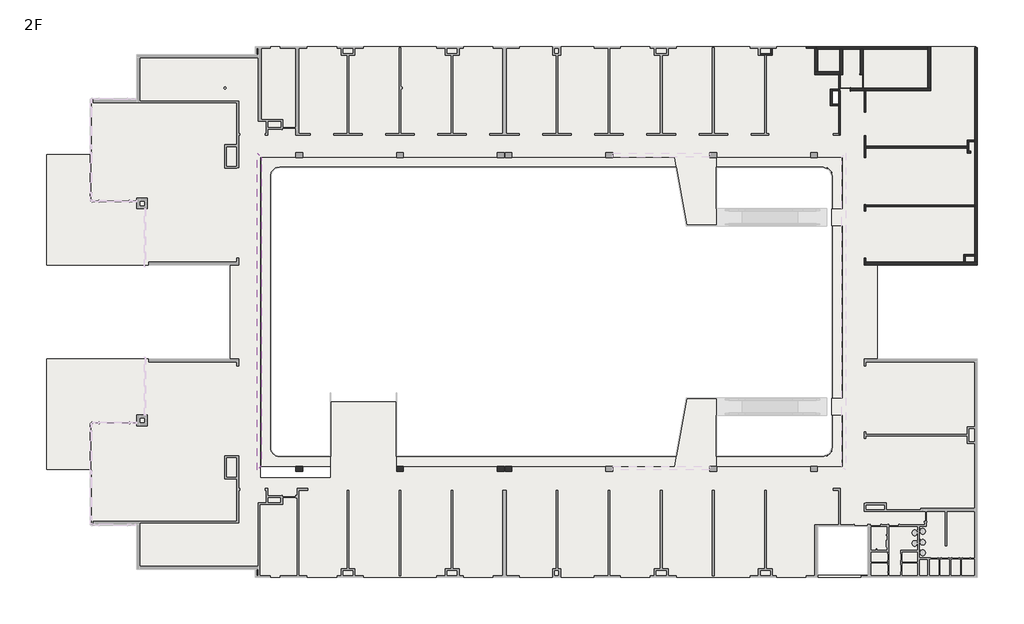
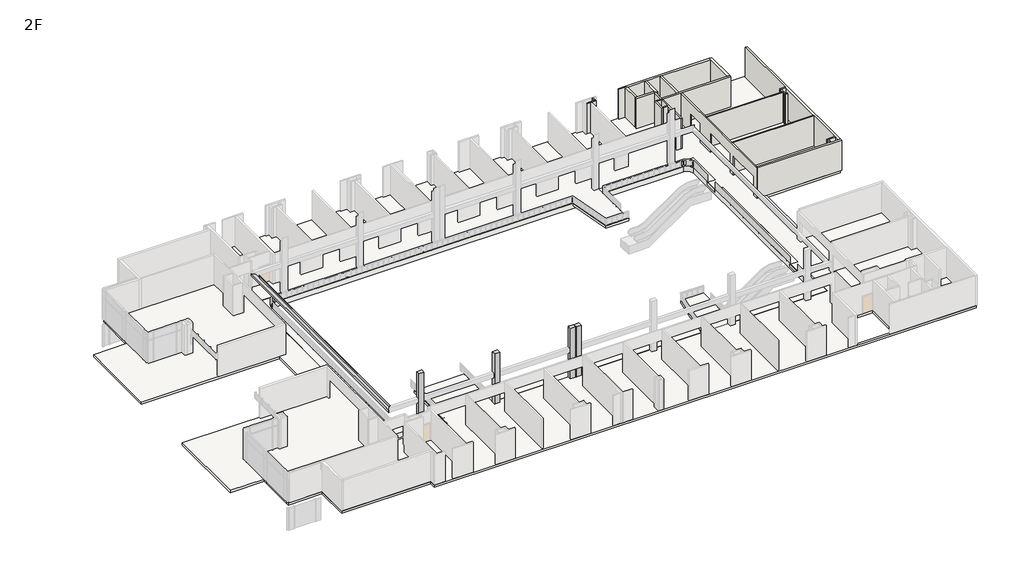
# One storey, part 5 of 6: 24 walls, 4 columns, 2 doors, 2 slabs, 1 beam.
"""IFC4 building model written with IfcOpenShell, lengths in millimetres."""

from ifc_helpers import new_model, si_unit, frame, origin, place, context, project, spatial, polyline, circle_curve, outline, extrude, faceted_brep, transform, mapped, element, save
from ifc_brep_helpers import plane_surface, cylinder_surface, revolved_surface, advanced_brep
from components import m_single_flush_d_1200x2150_ab82cfb8, m_single_flush_d_900x2150_afd04a23

model = new_model("IFC4")

# Units and contexts
model_context = context("Model", 3, world=origin())
ifc_project = project(units=[si_unit("LENGTHUNIT", "METRE", prefix="MILLI")], contexts=[model_context])

# Site, building, storey
site = spatial("IfcSite", under=ifc_project)
building = spatial("IfcBuilding", under=site)
storey = spatial("IfcBuildingStorey", under=building, Name="2F", Elevation=8100.0)

# Beam
placement = place(None, origin())
element("IfcBeam", 1, ObjectType="M_Concrete-Rectangular Beam : 350 x 550mm", at=placement, inside=storey, context=model_context, shape_type="AdvancedBrep", body=[
    advanced_brep(
    [(-20552.5865899, -15987.6148653, 11850.0), (-20537.5865899, -15972.6148653, 11850.0), (-20537.5865899, 10784.6332503, 11850.0), (-20552.5865899, 10635.3851347, 11850.0), (-20537.5865899, -15972.6148653, 11300.0), (-20537.5865899, 11447.3851347, 11300.0), (-20537.5865899, 11447.3851347, 11575.0), (-20537.5865899, 10784.6332503, 11575.0), (-20887.5865899, -16322.6148653, 11300.0), (-20887.5865899, 11797.3851347, 11300.0), (-20887.5865899, -16322.6148653, 11575.0), (-20887.5865899, 11797.3851347, 11575.0), (-20552.5865899, -15987.6148653, 11575.0), (-20552.5865899, 10635.3851347, 11575.0)],
    [
        (0, 1),
        (1, 2),
        (2, 3, circle_curve(frame((-19802.5865899, 10635.3851347, 11850.0), z_axis=(0.0, 0.0, 1.0), x_axis=(1.0, 0.0, 0.0)), 750.0)),
        (3, 0),
        (4, 5),
        (5, 6),
        (6, 7),
        (7, 2),
        (1, 4),
        (4, 8),
        (8, 9),
        (9, 5),
        (8, 10),
        (10, 11),
        (11, 9),
        (11, 6),
        (0, 12),
        (12, 10),
        (12, 13),
        (13, 7, circle_curve(frame((-19802.5865899, 10635.3851347, 11575.0), z_axis=(0.0, 0.0, -1.0), x_axis=(1.0, 0.0, 0.0)), 750.0)),
        (13, 3),
    ],
    [
        plane_surface(frame((-20887.5865899, 11434.6851347, 11850.0), z_axis=(0.0, 0.0, 1.0), x_axis=(0.0, -1.0, 0.0))),
        plane_surface(frame((-20537.5865899, 11434.6851347, 11850.0), z_axis=(1.0, 0.0, 0.0), x_axis=(0.0, -1.0, 0.0))),
        plane_surface(frame((-20537.5865899, 11434.6851347, 11300.0), z_axis=(0.0, 0.0, -1.0), x_axis=(0.0, -1.0, 0.0))),
        plane_surface(frame((-20887.5865899, 11434.6851347, 11300.0), z_axis=(-1.0, 0.0, 0.0), x_axis=(0.0, -1.0, 0.0))),
        plane_surface(frame((-20537.5865899, 11447.3851347, 11850.0), z_axis=(0.7071067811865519, 0.7071067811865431, 0.0), x_axis=(0.7071067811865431, -0.7071067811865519, 0.0))),
        plane_surface(frame((-20537.5865899, -15972.6148653, 11850.0), z_axis=(0.7071067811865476, -0.7071067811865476, 0.0), x_axis=(0.7071067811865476, 0.7071067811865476, 0.0))),
        plane_surface(frame((42824.4134101, 21235.3851347, 11575.0), z_axis=(0.0, 0.0, 1.0), x_axis=(1.0, 0.0, 0.0))),
        cylinder_surface(frame((-19802.5865899, 10635.3851347, 11850.0), z_axis=(0.0, 0.0, 1.0), x_axis=(1.0, 0.0, 0.0)), 750.0),
        plane_surface(frame((-20552.5865899, 10635.3851347, 11575.0), z_axis=(-1.0, 0.0, 0.0), x_axis=(0.0, 0.0, 1.0))),
    ],
    [
        (0, [[1, 2, 3, 4]]),
        (1, [[5, 6, 7, 8, -2, 9]]),
        (2, [[-5, 10, 11, 12]]),
        (3, [[-11, 13, 14, 15]]),
        (4, [[-12, -15, 16, -6]]),
        (5, [[-10, -9, -1, 17, 18, -13]]),
        (6, [[19, 20, -7, -16, -14, -18]]),
        (7, [[21, -3, -8, -20]]),
        (8, [[-21, -19, -17, -4]]),
    ],
),
])

# Columns
element("IfcColumn", 2, ObjectType="Concrete-Rectangular-Column : 450x600", at=placement, inside=storey, context=model_context, shape_type="Brep", body=[
    faceted_brep([(-7907.5865899, -15972.6148653, 8100.0), (-7907.5865899, -16422.6148653, 8100.0), (-8507.5865899, -16422.6148653, 8100.0), (-8507.5865899, -15972.6148653, 8100.0), (-8507.5865899, -15972.6148653, 11300.0), (-8507.5865899, -15972.6148653, 11850.0), (-8507.5865899, -15972.6148653, 14375.0), (-7907.5865899, -15972.6148653, 14375.0), (-7907.5865899, -15972.6148653, 11850.0), (-7907.5865899, -15972.6148653, 11300.0), (-8507.5865899, -16422.6148653, 14375.0), (-7907.5865899, -16422.6148653, 14375.0)], [[[0, 1, 2, 3]], [[0, 3, 4, 5, 6, 7, 8, 9]], [[3, 2, 10, 6, 5, 4]], [[2, 1, 11, 10]], [[1, 0, 9, 8, 7, 11]], [[7, 6, 10, 11]]]),
])
element("IfcColumn", 3, ObjectType="Concrete-Rectangular-Column : 450x600", at=placement, inside=storey, context=model_context, shape_type="Brep", body=[
    faceted_brep([(-16837.5865899, -15972.6148653, 15000.0), (-17437.5865899, -15972.6148653, 15000.0), (-17437.5865899, -16422.6148653, 15000.0), (-16837.5865899, -16422.6148653, 15000.0), (-16837.5865899, -15972.6148653, 8100.0), (-16837.5865899, -16422.6148653, 8100.0), (-17437.5865899, -16422.6148653, 8100.0), (-17437.5865899, -15972.6148653, 8100.0), (-16837.5865899, -15972.6148653, 11850.0), (-16837.5865899, -15972.6148653, 11300.0), (-17437.5865899, -15972.6148653, 11300.0), (-17437.5865899, -15972.6148653, 11850.0)], [[[0, 1, 2, 3]], [[4, 5, 6, 7]], [[1, 0, 8, 9, 4, 7, 10, 11]], [[2, 1, 11, 10, 7, 6]], [[3, 2, 6, 5]], [[0, 3, 5, 4, 9, 8]]]),
])
element("IfcColumn", 4, ObjectType="Concrete-Rectangular-Column : 450x600", at=placement, inside=storey, context=model_context, shape_type="Brep", body=[
    faceted_brep([(1022.4134101, -15972.6148653, 8100.0), (1022.4134101, -16422.6148653, 8100.0), (422.4134101, -16422.6148653, 8100.0), (422.4134101, -15972.6148653, 8100.0), (422.4134101, -15972.6148653, 11300.0), (422.4134101, -15972.6148653, 11850.0), (422.4134101, -15972.6148653, 14375.0), (1022.4134101, -15972.6148653, 14375.0), (1022.4134101, -15972.6148653, 11850.0), (1022.4134101, -15972.6148653, 11300.0), (422.4134101, -16422.6148653, 14375.0), (1022.4134101, -16422.6148653, 14375.0)], [[[0, 1, 2, 3]], [[0, 3, 4, 5, 6, 7, 8, 9]], [[3, 2, 10, 6, 5, 4]], [[2, 1, 11, 10]], [[1, 0, 9, 8, 7, 11]], [[7, 6, 10, 11]]]),
])
element("IfcColumn", 5, ObjectType="Concrete-Rectangular-Column : 450x600", at=placement, inside=storey, context=model_context, shape_type="Brep", body=[
    faceted_brep([(1697.4134101, -15972.6148653, 8100.0), (1697.4134101, -16422.6148653, 8100.0), (1097.4134101, -16422.6148653, 8100.0), (1097.4134101, -15972.6148653, 8100.0), (1097.4134101, -15972.6148653, 11300.0), (1097.4134101, -15972.6148653, 11850.0), (1097.4134101, -15972.6148653, 14375.0), (1697.4134101, -15972.6148653, 14375.0), (1697.4134101, -15972.6148653, 11850.0), (1697.4134101, -15972.6148653, 11300.0), (1097.4134101, -16422.6148653, 14375.0), (1697.4134101, -16422.6148653, 14375.0)], [[[0, 1, 2, 3]], [[0, 3, 4, 5, 6, 7, 8, 9]], [[3, 2, 10, 6, 5, 4]], [[2, 1, 11, 10]], [[1, 0, 9, 8, 7, 11]], [[7, 6, 10, 11]]]),
])

# Doors
m_single_flush_d_1200x2150_shape = m_single_flush_d_1200x2150_ab82cfb8(model_context)
element("IfcDoor", 6, ObjectType="M_Single-Flush : D-1200x2150", at=placement, inside=storey, context=model_context, shape_type="MappedRepresentation", body=[
    mapped(m_single_flush_d_1200x2150_shape, transform((32705.9134101, 18167.3851347, 8100.0), x_axis=(0.0, -1.0, 0.0), y_axis=(1.0, 0.0, 0.0), z_axis=(0.0, 0.0, 1.0))),
])
m_single_flush_d_900x2150_shape = m_single_flush_d_900x2150_afd04a23(model_context)
element("IfcDoor", 7, ObjectType="M_Single-Flush : D-900x2150", at=placement, inside=storey, context=model_context, shape_type="MappedRepresentation", body=[
    mapped(m_single_flush_d_900x2150_shape, transform((31237.4134101, 17450.8851347, 8100.0), x_axis=(-1.0, 0.0, 0.0), y_axis=(0.0, -1.0, 0.0), z_axis=(0.0, 0.0, 1.0))),
])

# Slabs
element("IfcSlab", 8, ObjectType="Composite 225mm", at=placement, inside=storey, context=model_context, shape_type="Brep", body=[
    faceted_brep([(-21051.0865899, 21259.3851347, 7825.0), (42824.4134101, 21259.3851347, 7825.0), (42824.4134101, 1885.3851347, 7825.0), (34074.4134101, 1885.3851347, 7825.0), (34074.4134101, -6457.6148653, 7825.0), (42824.4134101, -6457.6148653, 7825.0), (42824.4134101, -25834.6148653, 7825.0), (-21051.0865899, -25834.6148653, 7825.0), (-21051.0865899, -25109.6148653, 7825.0), (-31549.5865899, -25109.6148653, 7825.0), (-31549.5865899, -21112.6148653, 7825.0), (-35549.5865899, -21112.6148653, 7825.0), (-35549.5865899, -16237.6148653, 7825.0), (-39549.5865899, -16237.6148653, 7825.0), (-39549.5865899, -6460.6148653, 7825.0), (-23282.5865899, -6460.6148653, 7825.0), (-23282.5865899, 1885.3851348, 7825.0), (-39549.5865899, 1885.3851348, 7825.0), (-39549.5865899, 11662.3851347, 7825.0), (-35549.5865899, 11662.3851347, 7825.0), (-35549.5865899, 16534.3851347, 7825.0), (-31549.5865899, 16534.3851347, 7825.0), (-31549.5865899, 20534.3851347, 7825.0), (-21051.0865899, 20534.3851347, 7825.0), (16102.6351768, 11409.3851347, 7825.0), (10727.4134101, 11409.3851347, 7825.0), (9927.4134101, 11409.3851347, 7825.0), (-7807.5865899, 11409.3851347, 7825.0), (-8607.5865899, 11409.3851347, 7825.0), (-16522.5865899, 11409.3851347, 7825.0), (-17322.5865899, 11409.3851347, 7825.0), (-20551.0865899, 11409.3851347, 7825.0), (-20551.0865899, 11397.3851347, 7825.0), (-20551.0865899, -15960.6148653, 7825.0), (-20551.0865899, -15986.1148653, 7825.0), (-20551.0865899, -16322.6148653, 7825.0), (-20551.0865899, -16960.6148653, 7825.0), (-14412.5865899, -16960.6148653, 7825.0), (-14412.5865899, -16322.6148653, 7825.0), (-14412.5865899, -15972.6148653, 7825.0), (-14412.5865899, -10230.6148653, 7825.0), (-8492.5865899, -10230.6148653, 7825.0), (-8492.5865899, -15984.6148653, 7825.0), (-7807.5865899, -15984.6148653, 7825.0), (422.4134101, -15984.6148653, 7825.0), (1022.4134101, -15984.6148653, 7825.0), (1097.4134101, -15984.6148653, 7825.0), (1697.4134101, -15984.6148653, 7825.0), (9927.4134101, -15984.6148653, 7825.0), (10727.4134101, -15984.6148653, 7825.0), (16102.6351768, -15984.6148653, 7825.0), (16104.7511006, -15972.6148653, 7825.0), (17169.4134101, -9934.6148653, 7825.0), (19869.4134101, -9934.6148653, 7825.0), (19869.4134101, -15984.6148653, 7825.0), (19957.4134101, -15984.6148653, 7825.0), (27987.4134101, -15984.6148653, 7825.0), (28787.4134101, -15984.6148653, 7825.0), (30974.4134101, -15984.6148653, 7825.0), (30974.4134101, -15972.6148653, 7825.0), (30974.4134101, -11484.6148653, 7825.0), (30962.4134101, -11484.6148653, 7825.0), (30034.2682249, -11484.6148653, 7825.0), (30034.2682249, -9934.6148653, 7825.0), (30962.4134101, -9934.6148653, 7825.0), (30974.4134101, -9934.6148653, 7825.0), (30974.4134101, 5335.3851347, 7825.0), (30962.4134101, 5335.3851347, 7825.0), (30034.2682249, 5335.3851347, 7825.0), (30034.2682249, 6885.3851347, 7825.0), (30962.4134101, 6885.3851347, 7825.0), (30974.4134101, 6885.3851347, 7825.0), (30974.4134101, 11397.3851347, 7825.0), (30974.4134101, 11409.3851347, 7825.0), (28787.4134101, 11409.3851347, 7825.0), (27987.4134101, 11409.3851347, 7825.0), (19957.4134101, 11409.3851347, 7825.0), (19869.4134101, 11409.3851347, 7825.0), (19869.4134101, 5335.3851347, 7825.0), (17169.4134101, 5335.3851347, 7825.0), (16104.74274, 11397.3851347, 7825.0), (28799.4134101, -21299.6148653, 7825.0), (28799.4134101, -25604.6148653, 7825.0), (33247.4134101, -25604.6148653, 7825.0), (33247.4134101, -21299.6148653, 7825.0), (30672.4134101, 17337.3851347, 7825.0), (30072.4134101, 17337.3851347, 7825.0), (30072.4134101, 16137.3851347, 7825.0), (30672.4134101, 16137.3851347, 7825.0), (42824.4134101, 21259.3851347, 8100.0), (-21051.0865899, 21259.3851347, 8100.0), (-21051.0865899, 20534.3851347, 8100.0), (-31549.5865899, 20534.3851347, 8100.0), (-31549.5865899, 16534.3851347, 8100.0), (-35549.5865899, 16534.3851347, 8100.0), (-35549.5865899, 11662.3851347, 8100.0), (-39549.5865899, 11662.3851347, 8100.0), (-39549.5865899, 1885.3851348, 8100.0), (-23282.5865899, 1885.3851348, 8100.0), (-23282.5865899, -6460.6148653, 8100.0), (-39549.5865899, -6460.6148653, 8100.0), (-39549.5865899, -16237.6148653, 8100.0), (-35549.5865899, -16237.6148653, 8100.0), (-35549.5865899, -21112.6148653, 8100.0), (-31549.5865899, -21112.6148653, 8100.0), (-31549.5865899, -25109.6148653, 8100.0), (-21051.0865899, -25109.6148653, 8100.0), (-21051.0865899, -25834.6148653, 8100.0), (42824.4134101, -25834.6148653, 8100.0), (42824.4134101, -6457.6148653, 8100.0), (34074.4134101, -6457.6148653, 8100.0), (34074.4134101, 1885.3851347, 8100.0), (42824.4134101, 1885.3851347, 8100.0), (-20551.0865899, 11409.3851347, 8100.0), (-17322.5865899, 11409.3851347, 8100.0), (-16522.5865899, 11409.3851347, 8100.0), (-8607.5865899, 11409.3851347, 8100.0), (-7807.5865899, 11409.3851347, 8100.0), (9927.4134101, 11409.3851347, 8100.0), (10727.4134101, 11409.3851347, 8100.0), (16102.6351768, 11409.3851347, 8100.0), (16104.74274, 11397.3851347, 8100.0), (17169.4134101, 5335.3851347, 8100.0), (19869.4134101, 5335.3851347, 8100.0), (19869.4134101, 11409.3851347, 8100.0), (19957.4134101, 11409.3851347, 8100.0), (27987.4134101, 11409.3851347, 8100.0), (28787.4134101, 11409.3851347, 8100.0), (30974.4134101, 11409.3851347, 8100.0), (30974.4134101, 11397.3851347, 8100.0), (30974.4134101, 6885.3851347, 8100.0), (30034.2682249, 6885.3851347, 8100.0), (30034.2682249, 5335.3851347, 8100.0), (30974.4134101, 5335.3851347, 8100.0), (30974.4134101, -9934.6148653, 8100.0), (30034.2682249, -9934.6148653, 8100.0), (30034.2682249, -11484.6148653, 8100.0), (30974.4134101, -11484.6148653, 8100.0), (30974.4134101, -15972.6148653, 8100.0), (30974.4134101, -15984.6148653, 8100.0), (28787.4134101, -15984.6148653, 8100.0), (27987.4134101, -15984.6148653, 8100.0), (19957.4134101, -15984.6148653, 8100.0), (19869.4134101, -15984.6148653, 8100.0), (19869.4134101, -9934.6148653, 8100.0), (17169.4134101, -9934.6148653, 8100.0), (16104.7511006, -15972.6148653, 8100.0), (16102.6351768, -15984.6148653, 8100.0), (10727.4134101, -15984.6148653, 8100.0), (9927.4134101, -15984.6148653, 8100.0), (1697.4134101, -15984.6148653, 8100.0), (1097.4134101, -15984.6148653, 8100.0), (1022.4134101, -15984.6148653, 8100.0), (422.4134101, -15984.6148653, 8100.0), (-7807.5865899, -15984.6148653, 8100.0), (-8492.5865899, -15984.6148653, 8100.0), (-8492.5865899, -10230.6148653, 8100.0), (-14412.5865899, -10230.6148653, 8100.0), (-14412.5865899, -15972.6148653, 8100.0), (-14412.5865899, -16322.6148653, 8100.0), (-14412.5865899, -16960.6148653, 8100.0), (-20551.0865899, -16960.6148653, 8100.0), (-20551.0865899, -16322.6148653, 8100.0), (-20551.0865899, -15986.1148653, 8100.0), (-20551.0865899, 11397.3851347, 8100.0), (28799.4134101, -25604.6148653, 8100.0), (28799.4134101, -21299.6148653, 8100.0), (33247.4134101, -21299.6148653, 8100.0), (33247.4134101, -25604.6148653, 8100.0), (30072.4134101, 17337.3851347, 8100.0), (30672.4134101, 17337.3851347, 8100.0), (30672.4134101, 16137.3851347, 8100.0), (30072.4134101, 16137.3851347, 8100.0), (30974.4134101, -11484.6148653, 8025.0), (30974.4134101, -9934.6148653, 8025.0), (30974.4134101, 5335.3851347, 8025.0), (30974.4134101, 6885.3851347, 8025.0)], [[[0, 1, 2, 3, 4, 5, 6, 7, 8, 9, 10, 11, 12, 13, 14, 15, 16, 17, 18, 19, 20, 21, 22, 23], [24, 25, 26, 27, 28, 29, 30, 31, 32, 33, 34, 35, 36, 37, 38, 39, 40, 41, 42, 43, 44, 45, 46, 47, 48, 49, 50, 51, 52, 53, 54, 55, 56, 57, 58, 59, 60, 61, 62, 63, 64, 65, 66, 67, 68, 69, 70, 71, 72, 73, 74, 75, 76, 77, 78, 79, 80], [81, 82, 83, 84], [85, 86, 87, 88]], [[89, 90, 91, 92, 93, 94, 95, 96, 97, 98, 99, 100, 101, 102, 103, 104, 105, 106, 107, 108, 109, 110, 111, 112], [113, 114, 115, 116, 117, 118, 119, 120, 121, 122, 123, 124, 125, 126, 127, 128, 129, 130, 131, 132, 133, 134, 135, 136, 137, 138, 139, 140, 141, 142, 143, 144, 145, 146, 147, 148, 149, 150, 151, 152, 153, 154, 155, 156, 157, 158, 159, 160, 161, 162, 163, 164], [165, 166, 167, 168], [169, 170, 171, 172]], [[1, 0, 90, 89]], [[2, 1, 89, 112]], [[3, 2, 112, 111]], [[4, 3, 111, 110]], [[5, 4, 110, 109]], [[6, 5, 109, 108]], [[7, 6, 108, 107]], [[8, 7, 107, 106]], [[9, 8, 106, 105]], [[10, 9, 105, 104]], [[11, 10, 104, 103]], [[12, 11, 103, 102]], [[13, 12, 102, 101]], [[14, 13, 101, 100]], [[15, 14, 100, 99]], [[16, 15, 99, 98]], [[17, 16, 98, 97]], [[18, 17, 97, 96]], [[19, 18, 96, 95]], [[20, 19, 95, 94]], [[21, 20, 94, 93]], [[22, 21, 93, 92]], [[23, 22, 92, 91]], [[0, 23, 91, 90]], [[31, 30, 29, 28, 27, 26, 25, 24, 120, 119, 118, 117, 116, 115, 114, 113]], [[36, 35, 34, 33, 32, 31, 113, 164, 163, 162, 161]], [[37, 36, 161, 160]], [[40, 39, 38, 37, 160, 159, 158, 157]], [[41, 40, 157, 156]], [[42, 41, 156, 155]], [[50, 49, 48, 47, 46, 45, 44, 43, 42, 155, 154, 153, 152, 151, 150, 149, 148, 147]], [[52, 51, 50, 147, 146, 145]], [[53, 52, 145, 144]], [[54, 53, 144, 143]], [[58, 57, 56, 55, 54, 143, 142, 141, 140, 139]], [[60, 59, 58, 139, 138, 137, 173]], [[62, 61, 60, 173, 137, 136]], [[63, 62, 136, 135]], [[65, 64, 63, 135, 134, 174]], [[66, 65, 174, 134, 133, 175]], [[68, 67, 66, 175, 133, 132]], [[69, 68, 132, 131]], [[71, 70, 69, 131, 130, 176]], [[73, 72, 71, 176, 130, 129, 128]], [[77, 76, 75, 74, 73, 128, 127, 126, 125, 124]], [[78, 77, 124, 123]], [[79, 78, 123, 122]], [[24, 80, 79, 122, 121, 120]], [[82, 81, 166, 165]], [[83, 82, 165, 168]], [[84, 83, 168, 167]], [[81, 84, 167, 166]], [[85, 170, 169, 86]], [[86, 169, 172, 87]], [[87, 172, 171, 88]], [[170, 85, 88, 171]]]),
])
element("IfcSlab", 9, ObjectType="Composite 625mm", at=placement, inside=storey, context=model_context, shape_type="AdvancedBrep", body=[
    advanced_brep(
    [(-20537.5865899, 11397.3851347, 7475.0), (30962.4134101, 11397.3851347, 7475.0), (30962.4134101, -15972.6148653, 7475.0), (-20537.5865899, -15972.6148653, 7475.0), (-20537.5865899, -15960.6148653, 7475.0), (-18887.5865899, 10497.3851347, 7475.0), (-19637.5865899, 9747.3851347, 7475.0), (-19637.5865899, -14322.6148653, 7475.0), (-18887.5865899, -15072.6148653, 7475.0), (29312.4134101, -15072.6148653, 7475.0), (30062.4134101, -14322.6148653, 7475.0), (30062.4134101, 9747.3851347, 7475.0), (29312.4134101, 10497.3851347, 7475.0), (-20537.5865899, 11397.3851347, 8100.0), (-20537.5865899, -15972.6148653, 8100.0), (30962.4134101, -15972.6148653, 8100.0), (30962.4134101, 11397.3851347, 8100.0), (-18887.5865899, 10497.3851347, 8100.0), (29312.4134101, 10497.3851347, 8100.0), (30062.4134101, 9747.3851347, 8100.0), (30062.4134101, -14322.6148653, 8100.0), (29312.4134101, -15072.6148653, 8100.0), (-18887.5865899, -15072.6148653, 8100.0), (-19637.5865899, -14322.6148653, 8100.0), (-19637.5865899, 9747.3851347, 8100.0), (-20537.5865899, 11397.3851347, 7550.0), (-20537.5865899, 11397.3851347, 8025.0), (30962.4134101, 11397.3851347, 8025.0), (30962.4134101, 11397.3851347, 7550.0), (30962.4134101, -15972.6148653, 8025.0), (30962.4134101, -15972.6148653, 7550.0)],
    [
        (0, 1),
        (1, 2),
        (2, 3),
        (3, 4),
        (4, 0),
        (5, 6, circle_curve(frame((-18887.5865899, 9747.3851347, 7475.0), z_axis=(0.0, 0.0, 1.0), x_axis=(1.0, 0.0, 0.0)), 750.0)),
        (6, 7),
        (7, 8, circle_curve(frame((-18887.5865899, -14322.6148653, 7475.0), z_axis=(0.0, 0.0, 1.0), x_axis=(1.0, 0.0, 0.0)), 750.0)),
        (8, 9),
        (9, 10, circle_curve(frame((29312.4134101, -14322.6148653, 7475.0), z_axis=(0.0, 0.0, 1.0), x_axis=(1.0, 0.0, 0.0)), 750.0)),
        (10, 11),
        (11, 12, circle_curve(frame((29312.4134101, 9747.3851347, 7475.0), z_axis=(0.0, 0.0, 1.0), x_axis=(1.0, 0.0, 0.0)), 750.0)),
        (12, 5),
        (13, 14),
        (14, 15),
        (15, 16),
        (16, 13),
        (17, 18),
        (18, 19, circle_curve(frame((29312.4134101, 9747.3851347, 8100.0), z_axis=(0.0, 0.0, -1.0), x_axis=(1.0, 0.0, 0.0)), 750.0)),
        (19, 20),
        (20, 21, circle_curve(frame((29312.4134101, -14322.6148653, 8100.0), z_axis=(0.0, 0.0, -1.0), x_axis=(1.0, 0.0, 0.0)), 750.0)),
        (21, 22),
        (22, 23, circle_curve(frame((-18887.5865899, -14322.6148653, 8100.0), z_axis=(0.0, 0.0, -1.0), x_axis=(1.0, 0.0, 0.0)), 750.0)),
        (23, 24),
        (24, 17, circle_curve(frame((-18887.5865899, 9747.3851347, 8100.0), z_axis=(0.0, 0.0, -1.0), x_axis=(1.0, 0.0, 0.0)), 750.0)),
        (0, 25),
        (25, 26),
        (26, 13),
        (16, 27),
        (27, 28),
        (28, 1),
        (15, 29),
        (29, 30),
        (30, 2),
        (14, 3),
        (5, 17),
        (24, 6),
        (23, 7),
        (22, 8),
        (21, 9),
        (20, 10),
        (19, 11),
        (18, 12),
    ],
    [
        plane_surface(frame((30712.4134101, 11397.3851347, 7475.0), z_axis=(0.0, 0.0, -1.0), x_axis=(1.0, 0.0, 0.0))),
        plane_surface(frame((30712.4134101, 11397.3851347, 8100.0), z_axis=(0.0, 0.0, 1.0), x_axis=(-1.0, 0.0, 0.0))),
        plane_surface(frame((-20537.5865899, 11397.3851347, 7475.0), z_axis=(0.0, 1.0, 0.0), x_axis=(0.0, 0.0, 1.0))),
        plane_surface(frame((30962.4134101, 11397.3851347, 7475.0), z_axis=(1.0, 0.0, 0.0), x_axis=(0.0, 0.0, 1.0))),
        plane_surface(frame((30962.4134101, -15972.6148653, 7475.0), z_axis=(0.0, -1.0, 0.0), x_axis=(0.0, 0.0, 1.0))),
        plane_surface(frame((-20537.5865899, -15972.6148653, 7475.0), z_axis=(-1.0, 0.0, 0.0), x_axis=(0.0, 0.0, 1.0))),
        revolved_surface(polyline([(-18137.5865899, 9747.3851347, 8100.0), (-18137.5865899, 9747.3851347, 7475.0)]), (-18887.5865899, 9747.3851347, 4850.0), (0.0, 0.0, 1.0)),
        plane_surface(frame((-19637.5865899, 9747.3851347, 7475.0), z_axis=(1.0, 0.0, 0.0), x_axis=(0.0, 0.0, 1.0))),
        revolved_surface(polyline([(-18137.5865899, -14322.6148653, 8100.0), (-18137.5865899, -14322.6148653, 7475.0)]), (-18887.5865899, -14322.6148653, 4850.0), (0.0, 0.0, 1.0)),
        plane_surface(frame((-18887.5865899, -15072.6148653, 7475.0), z_axis=(0.0, 1.0, 0.0), x_axis=(0.0, 0.0, 1.0))),
        revolved_surface(polyline([(30062.4134101, -14322.6148653, 8100.0), (30062.4134101, -14322.6148653, 7475.0)]), (29312.4134101, -14322.6148653, 4850.0), (0.0, 0.0, 1.0)),
        plane_surface(frame((30062.4134101, -14322.6148653, 7475.0), z_axis=(-1.0, 0.0, 0.0), x_axis=(0.0, 0.0, 1.0))),
        revolved_surface(polyline([(30062.4134101, 9747.3851347, 8100.0), (30062.4134101, 9747.3851347, 7475.0)]), (29312.4134101, 9747.3851347, 4850.0), (0.0, 0.0, 1.0)),
        plane_surface(frame((29312.4134101, 10497.3851347, 7475.0), z_axis=(0.0, -1.0, 0.0), x_axis=(0.0, 0.0, 1.0))),
    ],
    [
        (0, [[1, 2, 3, 4, 5], [6, 7, 8, 9, 10, 11, 12, 13]]),
        (1, [[14, 15, 16, 17], [18, 19, 20, 21, 22, 23, 24, 25]]),
        (2, [[-1, 26, 27, 28, -17, 29, 30, 31]]),
        (3, [[-2, -31, -30, -29, -16, 32, 33, 34]]),
        (4, [[-3, -34, -33, -32, -15, 35]]),
        (5, [[-5, -4, -35, -14, -28, -27, -26]]),
        (6, [[-6, 36, -25, 37]]),
        (7, [[-7, -37, -24, 38]]),
        (8, [[-8, -38, -23, 39]]),
        (9, [[-9, -39, -22, 40]]),
        (10, [[-10, -40, -21, 41]]),
        (11, [[-11, -41, -20, 42]]),
        (12, [[-12, -42, -19, 43]]),
        (13, [[-13, -43, -18, -36]]),
    ],
),
])

# Walls
element("IfcWall", 10, ObjectType="wall-115", at=placement, inside=storey, context=model_context, shape_type="SweptSolid", body=[
    extrude(outline(polyline([(42717.4134101, 7047.8851347), (33092.4134101, 7047.8851347), (33092.4134101, 7189.8851347), (42717.4134101, 7189.8851347), (42717.4134101, 7047.8851347)])), frame((0.0, 0.0, 8100.0), z_axis=(0.0, 0.0, 1.0), x_axis=(1.0, 0.0, 0.0)), (0.0, 0.0, 1.0), 3750.0),
])
element("IfcWall", 11, ObjectType="wall-115", at=placement, inside=storey, context=model_context, shape_type="SweptSolid", body=[
    extrude(outline(polyline([(42055.4134101, 12262.5507406), (33092.4134101, 12262.5507406), (33092.4134101, 12404.5507406), (42055.4134101, 12404.5507406), (42055.4134101, 12262.5507406)])), frame((0.0, 0.0, 8100.0), z_axis=(0.0, 0.0, 1.0), x_axis=(1.0, 0.0, 0.0)), (0.0, 0.0, 1.0), 3750.0),
])
element("IfcWall", 12, ObjectType="wall-115", at=placement, inside=storey, context=model_context, shape_type="Brep", body=[
    faceted_brep([(42055.4134101, 12827.8851347, 8100.0), (42197.4134101, 12827.8851347, 8100.0), (42717.4134101, 12827.8851347, 8100.0), (42717.4134101, 12827.8851347, 11850.0), (42197.4134101, 12827.8851347, 11850.0), (42055.4134101, 12827.8851347, 11850.0), (42055.4134101, 12969.8851347, 8100.0), (42055.4134101, 12969.8851347, 11850.0), (42717.4134101, 12969.8851347, 11850.0), (42717.4134101, 12969.8851347, 8100.0)], [[[0, 1, 2, 3, 4, 5]], [[6, 7, 8, 9]], [[2, 1, 0, 6, 9]], [[5, 4, 3, 8, 7]], [[0, 5, 7, 6]], [[3, 2, 9, 8]]]),
])
element("IfcWall", 13, ObjectType="wall-115", at=placement, inside=storey, context=model_context, shape_type="Brep", body=[
    faceted_brep([(42055.4134101, 12827.8851347, 8100.0), (42055.4134101, 12404.5507406, 8100.0), (42055.4134101, 12262.5507406, 8100.0), (42055.4134101, 11962.3851347, 8100.0), (42055.4134101, 11962.3851347, 11850.0), (42055.4134101, 12262.5507406, 11850.0), (42055.4134101, 12404.5507406, 11850.0), (42055.4134101, 12827.8851347, 11850.0), (42197.4134101, 12827.8851347, 8100.0), (42197.4134101, 12827.8851347, 11850.0), (42197.4134101, 11962.3851347, 11850.0), (42197.4134101, 11962.3851347, 8100.0)], [[[0, 1, 2, 3, 4, 5, 6, 7]], [[8, 9, 10, 11]], [[3, 2, 1, 0, 8, 11]], [[7, 6, 5, 4, 10, 9]], [[4, 3, 11, 10]], [[0, 7, 9, 8]]]),
])
element("IfcWall", 14, ObjectType="wall-115", at=placement, inside=storey, context=model_context, shape_type="Brep", body=[
    faceted_brep([(42055.4134101, 11820.3851347, 8100.0), (42362.4134101, 11820.3851347, 8100.0), (42362.4134101, 11820.3851347, 11850.0), (42055.4134101, 11820.3851347, 11850.0), (42055.4134101, 11962.3851347, 8100.0), (42055.4134101, 11962.3851347, 11850.0), (42197.4134101, 11962.3851347, 11850.0), (42362.4134101, 11962.3851347, 11850.0), (42362.4134101, 11962.3851347, 8100.0), (42197.4134101, 11962.3851347, 8100.0)], [[[0, 1, 2, 3]], [[4, 5, 6, 7, 8, 9]], [[1, 0, 4, 9, 8]], [[2, 1, 8, 7]], [[3, 2, 7, 6, 5]], [[0, 3, 5, 4]]]),
])
element("IfcWall", 15, ObjectType="wall-115", at=placement, inside=storey, context=model_context, shape_type="Brep", body=[
    faceted_brep([(32950.4134101, 13356.1280057, 10500.0), (32950.4134101, 13356.1280057, 8100.0), (32950.4134101, 11397.3851347, 8100.0), (32950.4134101, 11397.3851347, 10500.0), (32950.4134101, 7247.3851347, 10500.0), (32950.4134101, 7247.3851347, 8100.0), (32950.4134101, 6647.3851347, 8100.0), (32950.4134101, 6647.3851347, 10500.0), (32950.4134101, 2497.3851347, 10500.0), (32950.4134101, 2497.3851347, 8100.0), (32950.4134101, 1885.3851347, 8100.0), (32950.4134101, 1885.3851347, 11850.0), (32950.4134101, 17322.3851347, 11850.0), (32950.4134101, 17322.3851347, 8100.0), (32950.4134101, 15437.9734756, 8100.0), (32950.4134101, 15437.9734756, 10500.0), (33092.4134101, 11397.3851347, 8100.0), (33092.4134101, 12262.5507406, 8100.0), (33092.4134101, 12404.5507406, 8100.0), (33092.4134101, 13356.1280057, 8100.0), (33092.4134101, 13356.1280057, 10500.0), (33092.4134101, 15437.9734756, 10500.0), (33092.4134101, 15437.9734756, 8100.0), (33092.4134101, 17322.3851347, 8100.0), (33092.4134101, 17322.3851347, 11850.0), (33092.4134101, 12404.5507406, 11850.0), (33092.4134101, 12262.5507406, 11850.0), (33092.4134101, 7189.8851347, 11850.0), (33092.4134101, 7047.8851347, 11850.0), (33092.4134101, 2142.3851347, 11850.0), (33092.4134101, 1885.3851347, 11850.0), (33092.4134101, 1885.3851347, 8100.0), (33092.4134101, 2142.3851347, 8100.0), (33092.4134101, 2497.3851347, 8100.0), (33092.4134101, 2497.3851347, 10500.0), (33092.4134101, 6647.3851347, 10500.0), (33092.4134101, 6647.3851347, 8100.0), (33092.4134101, 7047.8851347, 8100.0), (33092.4134101, 7189.8851347, 8100.0), (33092.4134101, 7247.3851347, 8100.0), (33092.4134101, 7247.3851347, 10500.0), (33092.4134101, 11397.3851347, 10500.0)], [[[0, 1, 2, 3, 4, 5, 6, 7, 8, 9, 10, 11, 12, 13, 14, 15]], [[16, 17, 18, 19, 20, 21, 22, 23, 24, 25, 26, 27, 28, 29, 30, 31, 32, 33, 34, 35, 36, 37, 38, 39, 40, 41]], [[31, 10, 9, 33, 32]], [[6, 5, 39, 38, 37, 36]], [[2, 1, 19, 18, 17, 16]], [[14, 13, 23, 22]], [[12, 11, 30, 29, 28, 27, 26, 25, 24]], [[11, 10, 31, 30]], [[13, 12, 24, 23]], [[7, 35, 34, 8]], [[8, 34, 33, 9]], [[35, 7, 6, 36]], [[41, 40, 4, 3]], [[16, 41, 3, 2]], [[40, 39, 5, 4]], [[21, 20, 0, 15]], [[22, 21, 15, 14]], [[20, 19, 1, 0]]]),
])
element("IfcWall", 16, ObjectType="wall-115", at=placement, inside=storey, context=model_context, shape_type="Brep", body=[
    faceted_brep([(42717.4134101, 2804.3851347, 8100.0), (41750.4134101, 2804.3851347, 8100.0), (41750.4134101, 2804.3851347, 11850.0), (42717.4134101, 2804.3851347, 11850.0), (42717.4134101, 2662.3851347, 8100.0), (42717.4134101, 2662.3851347, 11850.0), (41892.4134101, 2662.3851347, 11850.0), (41750.4134101, 2662.3851347, 11850.0), (41750.4134101, 2662.3851347, 8100.0), (41892.4134101, 2662.3851347, 8100.0)], [[[0, 1, 2, 3]], [[4, 5, 6, 7, 8, 9]], [[1, 0, 4, 9, 8]], [[3, 2, 7, 6, 5]], [[0, 3, 5, 4]], [[2, 1, 8, 7]]]),
])
element("IfcWall", 17, ObjectType="wall-115", at=placement, inside=storey, context=model_context, shape_type="SweptSolid", body=[
    extrude(outline(polyline([(41750.4134101, 2142.3851347), (41750.4134101, 2662.3851347), (41892.4134101, 2662.3851347), (41892.4134101, 2142.3851347), (41750.4134101, 2142.3851347)])), frame((0.0, 0.0, 8100.0), z_axis=(0.0, 0.0, 1.0), x_axis=(1.0, 0.0, 0.0)), (0.0, 0.0, 1.0), 3750.0),
])
element("IfcWall", 18, ObjectType="wall-115", at=placement, inside=storey, context=model_context, shape_type="Brep", body=[
    faceted_brep([(23699.4134101, 20487.3851347, 8100.0), (24099.9134101, 20487.3851347, 8100.0), (24241.9134101, 20487.3851347, 8100.0), (24787.4134101, 20487.3851347, 8100.0), (24787.4134101, 20487.3851347, 11850.0), (24241.9134101, 20487.3851347, 11850.0), (24099.9134101, 20487.3851347, 11850.0), (23699.4134101, 20487.3851347, 11850.0), (23699.4134101, 20629.3851347, 8100.0), (23699.4134101, 20629.3851347, 11850.0), (24645.4134101, 20629.3851347, 11850.0), (24787.4134101, 20629.3851347, 11850.0), (24787.4134101, 20629.3851347, 8100.0), (24645.4134101, 20629.3851347, 8100.0)], [[[0, 1, 2, 3, 4, 5, 6, 7]], [[8, 9, 10, 11, 12, 13]], [[3, 2, 1, 0, 8, 13, 12]], [[7, 6, 5, 4, 11, 10, 9]], [[4, 3, 12, 11]], [[0, 7, 9, 8]]]),
])
element("IfcWall", 19, ObjectType="wall-115", at=placement, inside=storey, context=model_context, shape_type="SweptSolid", body=[
    extrude(outline(polyline([(24787.4134101, 21117.3851347), (24787.4134101, 20629.3851347), (24645.4134101, 20629.3851347), (24645.4134101, 21117.3851347), (24787.4134101, 21117.3851347)])), frame((0.0, 0.0, 8100.0), z_axis=(0.0, 0.0, 1.0), x_axis=(1.0, 0.0, 0.0)), (0.0, 0.0, 1.0), 3750.0),
])
element("IfcWall", 20, ObjectType="wall-115", at=placement, inside=storey, context=model_context, shape_type="Brep", body=[
    faceted_brep([(30657.4134101, 18772.3851347, 8100.0), (30657.4134101, 17464.3851347, 8100.0), (30657.4134101, 17322.3851347, 8100.0), (30657.4134101, 16149.3851347, 8100.0), (30657.4134101, 16007.3851347, 8100.0), (30657.4134101, 13527.3851347, 8100.0), (30657.4134101, 13385.3851347, 8100.0), (30657.4134101, 13385.3851347, 11850.0), (30657.4134101, 13527.3851347, 11850.0), (30657.4134101, 16007.3851347, 11850.0), (30657.4134101, 16149.3851347, 11850.0), (30657.4134101, 17322.3851347, 11850.0), (30657.4134101, 17464.3851347, 11850.0), (30657.4134101, 18772.3851347, 11850.0), (30799.4134101, 18772.3851347, 11850.0), (30799.4134101, 17579.3851347, 11850.0), (30799.4134101, 17322.3851347, 11850.0), (30799.4134101, 13385.3851347, 11850.0), (30799.4134101, 13385.3851347, 8100.0), (30799.4134101, 17322.3851347, 8100.0), (30799.4134101, 17322.3851347, 10250.0), (30799.4134101, 17579.3851347, 10250.0), (30799.4134101, 17579.3851347, 8100.0), (30799.4134101, 18772.3851347, 8100.0), (30775.4134101, 18772.3851347, 8100.0), (30787.4134101, 17579.3851347, 8100.0), (30787.4134101, 17322.3851347, 8100.0), (30775.4134101, 18772.3851347, 11850.0), (30787.4134101, 17579.3851347, 10250.0), (30787.4134101, 17322.3851347, 10250.0)], [[[0, 1, 2, 3, 4, 5, 6, 7, 8, 9, 10, 11, 12, 13]], [[14, 15, 16, 17, 18, 19, 20, 21, 22, 23]], [[6, 5, 4, 3, 2, 1, 0, 24, 23, 22, 25, 26, 19, 18]], [[13, 12, 11, 10, 9, 8, 7, 17, 16, 15, 14, 27]], [[7, 6, 18, 17]], [[0, 13, 27, 14, 23, 24]], [[28, 25, 22, 21]], [[26, 29, 20, 19]], [[25, 28, 29, 26]], [[29, 28, 21, 20]]]),
])
element("IfcWall", 21, ObjectType="wall-115", at=placement, inside=storey, context=model_context, shape_type="Brep", body=[
    faceted_brep([(29942.4134101, 17464.3851347, 8100.0), (29942.4134101, 16007.3851347, 8100.0), (29942.4134101, 16007.3851347, 11850.0), (29942.4134101, 17464.3851347, 11850.0), (30084.4134101, 17464.3851347, 8100.0), (30084.4134101, 17464.3851347, 11850.0), (30084.4134101, 17322.3851347, 11850.0), (30084.4134101, 16149.3851347, 11850.0), (30084.4134101, 16007.3851347, 11850.0), (30084.4134101, 16007.3851347, 8100.0), (30084.4134101, 16149.3851347, 8100.0), (30084.4134101, 17322.3851347, 8100.0)], [[[0, 1, 2, 3]], [[4, 5, 6, 7, 8, 9, 10, 11]], [[1, 0, 4, 11, 10, 9]], [[3, 2, 8, 7, 6, 5]], [[2, 1, 9, 8]], [[0, 3, 5, 4]]]),
])
element("IfcWall", 22, ObjectType="wall-115", at=placement, inside=storey, context=model_context, shape_type="SweptSolid", body=[
    extrude(outline(polyline([(30084.4134101, 17464.3851347), (30657.4134101, 17464.3851347), (30657.4134101, 17322.3851347), (30084.4134101, 17322.3851347), (30084.4134101, 17464.3851347)])), frame((0.0, 0.0, 8100.0), z_axis=(0.0, 0.0, 1.0), x_axis=(1.0, 0.0, 0.0)), (0.0, 0.0, 1.0), 3750.0),
])
element("IfcWall", 23, ObjectType="wall-115", at=placement, inside=storey, context=model_context, shape_type="SweptSolid", body=[
    extrude(outline(polyline([(30084.4134101, 16149.3851347), (30657.4134101, 16149.3851347), (30657.4134101, 16007.3851347), (30084.4134101, 16007.3851347), (30084.4134101, 16149.3851347)])), frame((0.0, 0.0, 8100.0), z_axis=(0.0, 0.0, 1.0), x_axis=(1.0, 0.0, 0.0)), (0.0, 0.0, 1.0), 3750.0),
])
element("IfcWall", 24, ObjectType="wall-115", at=placement, inside=storey, context=model_context, shape_type="Brep", body=[
    faceted_brep([(27812.4134101, 21117.3851347, 8100.0), (28542.4134101, 21117.3851347, 8100.0), (28670.9134101, 21117.3851347, 8100.0), (28670.9134101, 21117.3851347, 11850.0), (28542.4134101, 21117.3851347, 11850.0), (27812.4134101, 21117.3851347, 11850.0), (27812.4134101, 21259.3851347, 8100.0), (27812.4134101, 21259.3851347, 11850.0), (28670.9134101, 21259.3851347, 11850.0), (28670.9134101, 21259.3851347, 8100.0)], [[[0, 1, 2, 3, 4, 5]], [[6, 7, 8, 9]], [[2, 1, 0, 6, 9]], [[3, 2, 9, 8]], [[5, 4, 3, 8, 7]], [[0, 5, 7, 6]]]),
])
element("IfcWall", 25, ObjectType="wall-230", at=placement, inside=storey, context=model_context, shape_type="SweptSolid", body=[
    extrude(outline(polyline([(28799.4134101, 21002.3851347), (28799.4134101, 19029.3851347), (28542.4134101, 19029.3851347), (28542.4134101, 21117.3851347), (28670.9134101, 21117.3851347), (28670.9134101, 21002.3851347), (28799.4134101, 21002.3851347)])), frame((0.0, 0.0, 8100.0), z_axis=(0.0, 0.0, 1.0), x_axis=(1.0, 0.0, 0.0)), (0.0, 0.0, 1.0), 3750.0),
])
element("IfcWall", 26, ObjectType="wall-230", at=placement, inside=storey, context=model_context, shape_type="Brep", body=[
    faceted_brep([(30799.4134101, 17579.3851347, 11850.0), (32577.4134101, 17579.3851347, 11850.0), (32834.4134101, 17579.3851347, 11850.0), (38577.4134101, 17579.3851347, 11850.0), (38834.4134101, 17579.3851347, 11850.0), (38834.4134101, 17579.3851347, 8100.0), (38577.4134101, 17579.3851347, 8100.0), (32834.4134101, 17579.3851347, 8100.0), (32834.4134101, 17579.3851347, 10250.0), (32577.4134101, 17579.3851347, 10250.0), (32577.4134101, 17579.3851347, 8100.0), (31687.4134101, 17579.3851347, 8100.0), (31687.4134101, 17579.3851347, 10250.0), (30799.4134101, 17579.3851347, 10250.0), (38834.4134101, 17322.3851347, 11850.0), (33092.4134101, 17322.3851347, 11850.0), (32950.4134101, 17322.3851347, 11850.0), (30799.4134101, 17322.3851347, 11850.0), (30799.4134101, 17322.3851347, 10250.0), (31687.4134101, 17322.3851347, 10250.0), (31687.4134101, 17322.3851347, 8100.0), (32950.4134101, 17322.3851347, 8100.0), (33092.4134101, 17322.3851347, 8100.0), (38834.4134101, 17322.3851347, 8100.0), (32577.4134101, 17567.3851347, 8100.0), (32834.4134101, 17567.3851347, 8100.0), (32577.4134101, 17567.3851347, 10250.0), (32834.4134101, 17567.3851347, 10250.0)], [[[0, 1, 2, 3, 4, 5, 6, 7, 8, 9, 10, 11, 12, 13]], [[14, 15, 16, 17, 18, 19, 20, 21, 22, 23]], [[5, 23, 22, 21, 20, 11, 10, 24, 25, 7, 6]], [[4, 3, 2, 1, 0, 17, 16, 15, 14]], [[17, 0, 13, 18]], [[5, 4, 14, 23]], [[26, 24, 10, 9]], [[25, 27, 8, 7]], [[24, 26, 27, 25]], [[27, 26, 9, 8]], [[12, 19, 18, 13]], [[19, 12, 11, 20]]]),
])
element("IfcWall", 27, ObjectType="wall-230", at=placement, inside=storey, context=model_context, shape_type="Brep", body=[
    faceted_brep([(33092.4134101, 1885.3851347, 8100.0), (42974.4134101, 1885.3851347, 8100.0), (42974.4134101, 1885.3851347, 11850.0), (33092.4134101, 1885.3851347, 11850.0), (33092.4134101, 2142.3851347, 8100.0), (33092.4134101, 2142.3851347, 11850.0), (41750.4134101, 2142.3851347, 11850.0), (41892.4134101, 2142.3851347, 11850.0), (42717.4134101, 2142.3851347, 11850.0), (42974.4134101, 2142.3851347, 11850.0), (42974.4134101, 2142.3851347, 8100.0), (42717.4134101, 2142.3851347, 8100.0), (41892.4134101, 2142.3851347, 8100.0), (41750.4134101, 2142.3851347, 8100.0)], [[[0, 1, 2, 3]], [[4, 5, 6, 7, 8, 9, 10, 11, 12, 13]], [[1, 0, 4, 13, 12, 11, 10]], [[3, 2, 9, 8, 7, 6, 5]], [[0, 3, 5, 4]], [[2, 1, 10, 9]]]),
])
element("IfcWall", 28, ObjectType="wall-230", at=placement, inside=storey, context=model_context, shape_type="Brep", body=[
    faceted_brep([(42974.4134101, 2142.3851347, 8100.0), (42974.4134101, 21132.3851347, 8100.0), (42974.4134101, 21132.3851347, 11850.0), (42974.4134101, 2142.3851347, 11850.0), (42717.4134101, 2142.3851347, 8100.0), (42717.4134101, 2142.3851347, 11850.0), (42717.4134101, 2662.3851347, 11850.0), (42717.4134101, 2804.3851347, 11850.0), (42717.4134101, 7047.8851347, 11850.0), (42717.4134101, 7189.8851347, 11850.0), (42717.4134101, 12827.8851347, 11850.0), (42717.4134101, 12969.8851347, 11850.0), (42717.4134101, 21132.3851347, 11850.0), (42717.4134101, 21132.3851347, 8100.0), (42717.4134101, 12969.8851347, 8100.0), (42717.4134101, 12827.8851347, 8100.0), (42717.4134101, 7189.8851347, 8100.0), (42717.4134101, 7047.8851347, 8100.0), (42717.4134101, 2804.3851347, 8100.0), (42717.4134101, 2662.3851347, 8100.0)], [[[0, 1, 2, 3]], [[4, 5, 6, 7, 8, 9, 10, 11, 12, 13, 14, 15, 16, 17, 18, 19]], [[1, 0, 4, 19, 18, 17, 16, 15, 14, 13]], [[2, 1, 13, 12]], [[3, 2, 12, 11, 10, 9, 8, 7, 6, 5]], [[0, 3, 5, 4]]]),
])
element("IfcWall", 29, ObjectType="wall-230", at=placement, inside=storey, context=model_context, shape_type="Brep", body=[
    faceted_brep([(38834.4134101, 17579.3851347, 8100.0), (38834.4134101, 21259.3851347, 8100.0), (38834.4134101, 21259.3851347, 11850.0), (38834.4134101, 17579.3851347, 11850.0), (38577.4134101, 17579.3851347, 8100.0), (38577.4134101, 17579.3851347, 11850.0), (38577.4134101, 21002.3851347, 11850.0), (38577.4134101, 21259.3851347, 11850.0), (38577.4134101, 21259.3851347, 8100.0), (38577.4134101, 21002.3851347, 8100.0)], [[[0, 1, 2, 3]], [[4, 5, 6, 7, 8, 9]], [[1, 0, 4, 9, 8]], [[3, 2, 7, 6, 5]], [[2, 1, 8, 7]], [[0, 3, 5, 4]]]),
])
element("IfcWall", 30, ObjectType="wall-230", at=placement, inside=storey, context=model_context, shape_type="Brep", body=[
    faceted_brep([(30775.4134101, 21002.3851347, 8100.0), (30775.4134101, 19029.3851347, 8100.0), (30775.4134101, 18772.3851347, 8100.0), (30775.4134101, 18772.3851347, 11850.0), (30775.4134101, 19029.3851347, 11850.0), (30775.4134101, 21002.3851347, 11850.0), (31032.4134101, 21002.3851347, 8100.0), (31032.4134101, 21002.3851347, 11850.0), (31032.4134101, 18772.3851347, 11850.0), (31032.4134101, 18772.3851347, 8100.0), (30799.4134101, 18772.3851347, 8100.0), (30799.4134101, 18772.3851347, 11850.0)], [[[0, 1, 2, 3, 4, 5]], [[6, 7, 8, 9]], [[2, 1, 0, 6, 9, 10]], [[5, 4, 3, 11, 8, 7]], [[3, 2, 10, 9, 8, 11]], [[0, 5, 7, 6]]]),
])
element("IfcWall", 31, ObjectType="wall-230", at=placement, inside=storey, context=model_context, shape_type="Brep", body=[
    faceted_brep([(30775.4134101, 19029.3851347, 8100.0), (28799.4134101, 19029.3851347, 8100.0), (28542.4134101, 19029.3851347, 8100.0), (28542.4134101, 19029.3851347, 11850.0), (28799.4134101, 19029.3851347, 11850.0), (30775.4134101, 19029.3851347, 11850.0), (30775.4134101, 18772.3851347, 8100.0), (30775.4134101, 18772.3851347, 11850.0), (30657.4134101, 18772.3851347, 11850.0), (28542.4134101, 18772.3851347, 11850.0), (28542.4134101, 18772.3851347, 8100.0), (30657.4134101, 18772.3851347, 8100.0)], [[[0, 1, 2, 3, 4, 5]], [[6, 7, 8, 9, 10, 11]], [[2, 1, 0, 6, 11, 10]], [[5, 4, 3, 9, 8, 7]], [[0, 5, 7, 6]], [[3, 2, 10, 9]]]),
])
element("IfcWall", 32, ObjectType="wall-230", at=placement, inside=storey, context=model_context, shape_type="SweptSolid", body=[
    extrude(outline(polyline([(17579.3851347, 11850.0), (21002.3851347, 11850.0), (21002.3851347, 8100.0), (18767.3851347, 8100.0), (18767.3851347, 10250.0), (17579.3851347, 10250.0), (17579.3851347, 11850.0)])), frame((32577.4134101, 0.0, 0.0), z_axis=(1.0, 0.0, 0.0), x_axis=(0.0, 1.0, 0.0)), (0.0, 0.0, 1.0), 257.0),
])
element("IfcWall", 33, ObjectType="wall-230", at=placement, inside=storey, context=model_context, shape_type="Brep", body=[
    faceted_brep([(38577.4134101, 21259.3851347, 8100.0), (28670.9134101, 21259.3851347, 8100.0), (28670.9134101, 21259.3851347, 11850.0), (38577.4134101, 21259.3851347, 11850.0), (38577.4134101, 21002.3851347, 8100.0), (38577.4134101, 21002.3851347, 11850.0), (32834.4134101, 21002.3851347, 11850.0), (32577.4134101, 21002.3851347, 11850.0), (31032.4134101, 21002.3851347, 11850.0), (30775.4134101, 21002.3851347, 11850.0), (28799.4134101, 21002.3851347, 11850.0), (28670.9134101, 21002.3851347, 11850.0), (28670.9134101, 21002.3851347, 8100.0), (28799.4134101, 21002.3851347, 8100.0), (30775.4134101, 21002.3851347, 8100.0), (31032.4134101, 21002.3851347, 8100.0), (32577.4134101, 21002.3851347, 8100.0), (32834.4134101, 21002.3851347, 8100.0), (28670.9134101, 21117.3851347, 8100.0), (28670.9134101, 21117.3851347, 11850.0)], [[[0, 1, 2, 3]], [[4, 5, 6, 7, 8, 9, 10, 11, 12, 13, 14, 15, 16, 17]], [[1, 0, 4, 17, 16, 15, 14, 13, 12, 18]], [[2, 1, 18, 12, 11, 19]], [[3, 2, 19, 11, 10, 9, 8, 7, 6, 5]], [[0, 3, 5, 4]]]),
])

save(model, "model.ifc")
